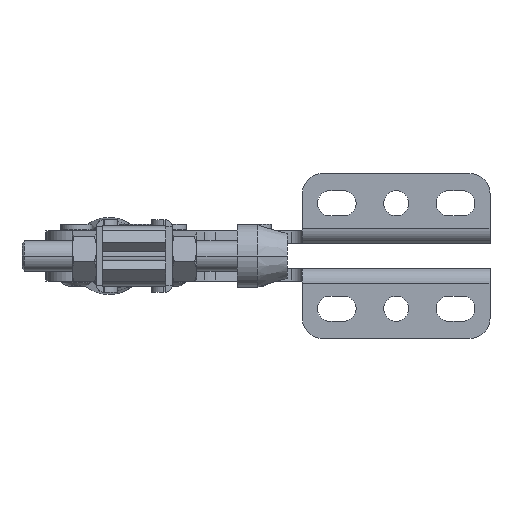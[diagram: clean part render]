
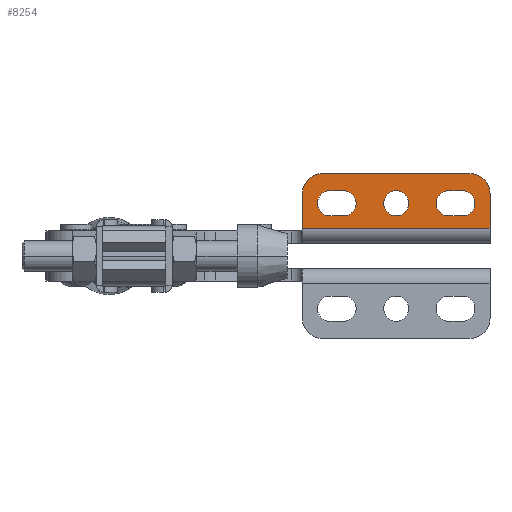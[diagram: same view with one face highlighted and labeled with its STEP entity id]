
A CAD part, left-side view. The second image highlights one B-rep face of the part: STEP entity #8254.
In plain terms, the highlighted planar face has unit normal (-1, 0, 0).
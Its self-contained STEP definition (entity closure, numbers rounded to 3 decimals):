
#241 = VECTOR ( 'NONE', #17406, 1000. ) ;
#344 = FACE_BOUND ( 'NONE', #18750, .T. ) ;
#382 = EDGE_CURVE ( 'NONE', #14639, #763, #6930, .T. ) ;
#401 = VERTEX_POINT ( 'NONE', #4260 ) ;
#462 = DIRECTION ( 'NONE',  ( -1., 0., 0. ) ) ;
#551 = CARTESIAN_POINT ( 'NONE',  ( -31.25, -125.245, 16.075 ) ) ;
#763 = VERTEX_POINT ( 'NONE', #1004 ) ;
#966 = ORIENTED_EDGE ( 'NONE', *, *, #8066, .T. ) ;
#1004 = CARTESIAN_POINT ( 'NONE',  ( -31.25, -125.245, 21.075 ) ) ;
#1170 = CARTESIAN_POINT ( 'NONE',  ( -31.25, -66.74, 0. ) ) ;
#1243 = DIRECTION ( 'NONE',  ( -1., 0., 0. ) ) ;
#1256 = CARTESIAN_POINT ( 'NONE',  ( -31.25, -130.745, 21.075 ) ) ;
#1421 = EDGE_CURVE ( 'NONE', #11229, #9070, #10262, .T. ) ;
#1564 = AXIS2_PLACEMENT_3D ( 'NONE', #4036, #14135, #15666 ) ;
#1580 = VERTEX_POINT ( 'NONE', #8840 ) ;
#1890 = CIRCLE ( 'NONE', #16538, 8. ) ;
#2366 = AXIS2_PLACEMENT_3D ( 'NONE', #6588, #7928, #6404 ) ;
#2526 = CARTESIAN_POINT ( 'NONE',  ( -31.25, -125.245, 11.075 ) ) ;
#2661 = EDGE_CURVE ( 'NONE', #1580, #11229, #16741, .T. ) ;
#2808 = DIRECTION ( 'NONE',  ( 0., 0., -1. ) ) ;
#2931 = CARTESIAN_POINT ( 'NONE',  ( -31.25, -130.745, 16.075 ) ) ;
#3078 = CARTESIAN_POINT ( 'NONE',  ( -31.25, -66.74, 6. ) ) ;
#3169 = CARTESIAN_POINT ( 'NONE',  ( -31.25, -130.745, 21.075 ) ) ;
#3248 = EDGE_CURVE ( 'NONE', #13111, #17751, #17593, .T. ) ;
#3279 = CARTESIAN_POINT ( 'NONE',  ( -31.25, -133.75, 20. ) ) ;
#3302 = DIRECTION ( 'NONE',  ( -1., 0., 0. ) ) ;
#4036 = CARTESIAN_POINT ( 'NONE',  ( -31.25, -77.745, 16.075 ) ) ;
#4245 = VERTEX_POINT ( 'NONE', #5282 ) ;
#4260 = CARTESIAN_POINT ( 'NONE',  ( -31.25, -83.245, 11.075 ) ) ;
#4333 = CARTESIAN_POINT ( 'NONE',  ( -31.25, -66.74, 6. ) ) ;
#4346 = CARTESIAN_POINT ( 'NONE',  ( -31.25, -141.75, 0. ) ) ;
#4396 = FACE_BOUND ( 'NONE', #10496, .T. ) ;
#4438 = VECTOR ( 'NONE', #4706, 1000. ) ;
#4614 = CARTESIAN_POINT ( 'NONE',  ( -31.25, -104.245, 11.075 ) ) ;
#4706 = DIRECTION ( 'NONE',  ( 0., 1., 0. ) ) ;
#4977 = LINE ( 'NONE', #8129, #18229 ) ;
#5042 = ORIENTED_EDGE ( 'NONE', *, *, #1421, .T. ) ;
#5282 = CARTESIAN_POINT ( 'NONE',  ( -31.25, -130.745, 11.075 ) ) ;
#5624 = VECTOR ( 'NONE', #8625, 1000. ) ;
#5670 = CIRCLE ( 'NONE', #7209, 5. ) ;
#5826 = EDGE_CURVE ( 'NONE', #401, #13139, #18044, .T. ) ;
#5925 = FACE_BOUND ( 'NONE', #13856, .T. ) ;
#5948 = LINE ( 'NONE', #11659, #5624 ) ;
#6024 = CARTESIAN_POINT ( 'NONE',  ( -31.25, -77.745, 11.075 ) ) ;
#6026 = DIRECTION ( 'NONE',  ( 0., -1., 0. ) ) ;
#6097 = CARTESIAN_POINT ( 'NONE',  ( -31.25, -83.245, 21.075 ) ) ;
#6125 = EDGE_CURVE ( 'NONE', #17751, #13111, #14069, .T. ) ;
#6143 = LINE ( 'NONE', #3078, #4438 ) ;
#6216 = VECTOR ( 'NONE', #16379, 1000. ) ;
#6332 = CARTESIAN_POINT ( 'NONE',  ( -31.25, -133.75, 28. ) ) ;
#6333 = EDGE_CURVE ( 'NONE', #17724, #7985, #1890, .T. ) ;
#6404 = DIRECTION ( 'NONE',  ( 0., 0., 1. ) ) ;
#6428 = DIRECTION ( 'NONE',  ( 0., 1., 0. ) ) ;
#6464 = VERTEX_POINT ( 'NONE', #12428 ) ;
#6588 = CARTESIAN_POINT ( 'NONE',  ( -31.25, -104.245, 16.075 ) ) ;
#6742 = VECTOR ( 'NONE', #7131, 1000. ) ;
#6930 = LINE ( 'NONE', #1256, #6742 ) ;
#7100 = AXIS2_PLACEMENT_3D ( 'NONE', #12684, #8318, #12415 ) ;
#7113 = DIRECTION ( 'NONE',  ( 0., 0., 1. ) ) ;
#7131 = DIRECTION ( 'NONE',  ( 0., 1., 0. ) ) ;
#7209 = AXIS2_PLACEMENT_3D ( 'NONE', #2931, #3302, #8943 ) ;
#7473 = ORIENTED_EDGE ( 'NONE', *, *, #382, .F. ) ;
#7550 = CARTESIAN_POINT ( 'NONE',  ( -31.25, 0., 0. ) ) ;
#7928 = DIRECTION ( 'NONE',  ( -1., 0., 0. ) ) ;
#7985 = VERTEX_POINT ( 'NONE', #6332 ) ;
#8066 = EDGE_CURVE ( 'NONE', #7985, #1580, #4977, .T. ) ;
#8129 = CARTESIAN_POINT ( 'NONE',  ( -31.25, 0., 28. ) ) ;
#8254 = ADVANCED_FACE ( 'NONE', ( #4396, #5925, #344, #10485 ), #9159, .F. ) ;
#8318 = DIRECTION ( 'NONE',  ( -1., 0., 0. ) ) ;
#8517 = CARTESIAN_POINT ( 'NONE',  ( -31.25, -104.245, 21.075 ) ) ;
#8607 = CARTESIAN_POINT ( 'NONE',  ( -31.25, -83.245, 21.075 ) ) ;
#8625 = DIRECTION ( 'NONE',  ( 0., -1., 0. ) ) ;
#8627 = CARTESIAN_POINT ( 'NONE',  ( -31.25, -83.245, 16.075 ) ) ;
#8677 = AXIS2_PLACEMENT_3D ( 'NONE', #551, #462, #13425 ) ;
#8840 = CARTESIAN_POINT ( 'NONE',  ( -31.25, -74.74, 28. ) ) ;
#8943 = DIRECTION ( 'NONE',  ( 0., 0., 1. ) ) ;
#8984 = LINE ( 'NONE', #13237, #16228 ) ;
#8991 = EDGE_CURVE ( 'NONE', #10345, #401, #5948, .T. ) ;
#9070 = VERTEX_POINT ( 'NONE', #4333 ) ;
#9109 = DIRECTION ( 'NONE',  ( -1., 0., 0. ) ) ;
#9144 = LINE ( 'NONE', #6097, #6216 ) ;
#9159 = PLANE ( 'NONE',  #15817 ) ;
#9644 = EDGE_CURVE ( 'NONE', #11010, #4245, #8984, .T. ) ;
#9988 = EDGE_CURVE ( 'NONE', #13139, #16473, #9144, .T. ) ;
#10262 = LINE ( 'NONE', #1170, #241 ) ;
#10345 = VERTEX_POINT ( 'NONE', #6024 ) ;
#10356 = CARTESIAN_POINT ( 'NONE',  ( -31.25, -66.74, 20. ) ) ;
#10485 = FACE_OUTER_BOUND ( 'NONE', #14866, .T. ) ;
#10496 = EDGE_LOOP ( 'NONE', ( #17508, #17696 ) ) ;
#10666 = ORIENTED_EDGE ( 'NONE', *, *, #8991, .F. ) ;
#10705 = CARTESIAN_POINT ( 'NONE',  ( -31.25, -141.75, 20. ) ) ;
#10793 = CIRCLE ( 'NONE', #8677, 5. ) ;
#10851 = ORIENTED_EDGE ( 'NONE', *, *, #6333, .T. ) ;
#11010 = VERTEX_POINT ( 'NONE', #2526 ) ;
#11229 = VERTEX_POINT ( 'NONE', #10356 ) ;
#11587 = LINE ( 'NONE', #4346, #13253 ) ;
#11659 = CARTESIAN_POINT ( 'NONE',  ( -31.25, -83.245, 11.075 ) ) ;
#11674 = DIRECTION ( 'NONE',  ( 0., 0., 1. ) ) ;
#11697 = ORIENTED_EDGE ( 'NONE', *, *, #18847, .T. ) ;
#11872 = ORIENTED_EDGE ( 'NONE', *, *, #15196, .F. ) ;
#12250 = CIRCLE ( 'NONE', #1564, 5. ) ;
#12415 = DIRECTION ( 'NONE',  ( 0., 0., 1. ) ) ;
#12428 = CARTESIAN_POINT ( 'NONE',  ( -31.25, -141.75, 6. ) ) ;
#12582 = ORIENTED_EDGE ( 'NONE', *, *, #9644, .F. ) ;
#12684 = CARTESIAN_POINT ( 'NONE',  ( -31.25, -104.245, 16.075 ) ) ;
#12739 = EDGE_CURVE ( 'NONE', #16473, #10345, #12250, .T. ) ;
#12808 = DIRECTION ( 'NONE',  ( -1., 0., 0. ) ) ;
#12866 = ORIENTED_EDGE ( 'NONE', *, *, #15942, .F. ) ;
#12979 = ORIENTED_EDGE ( 'NONE', *, *, #12739, .F. ) ;
#13111 = VERTEX_POINT ( 'NONE', #8517 ) ;
#13139 = VERTEX_POINT ( 'NONE', #8607 ) ;
#13234 = DIRECTION ( 'NONE',  ( 1., 0., 0. ) ) ;
#13237 = CARTESIAN_POINT ( 'NONE',  ( -31.25, -130.745, 11.075 ) ) ;
#13253 = VECTOR ( 'NONE', #11674, 1000. ) ;
#13376 = AXIS2_PLACEMENT_3D ( 'NONE', #15877, #12808, #2808 ) ;
#13425 = DIRECTION ( 'NONE',  ( 0., 0., 1. ) ) ;
#13856 = EDGE_LOOP ( 'NONE', ( #7473, #14577, #12582, #11872 ) ) ;
#14069 = CIRCLE ( 'NONE', #7100, 5. ) ;
#14135 = DIRECTION ( 'NONE',  ( -1., 0., 0. ) ) ;
#14189 = ORIENTED_EDGE ( 'NONE', *, *, #9988, .F. ) ;
#14484 = ORIENTED_EDGE ( 'NONE', *, *, #2661, .T. ) ;
#14577 = ORIENTED_EDGE ( 'NONE', *, *, #18372, .F. ) ;
#14639 = VERTEX_POINT ( 'NONE', #3169 ) ;
#14683 = AXIS2_PLACEMENT_3D ( 'NONE', #8627, #1243, #7113 ) ;
#14768 = DIRECTION ( 'NONE',  ( 0., 0., -1. ) ) ;
#14866 = EDGE_LOOP ( 'NONE', ( #11697, #10851, #966, #14484, #5042, #12866 ) ) ;
#14990 = DIRECTION ( 'NONE',  ( 0., 0., -1. ) ) ;
#15196 = EDGE_CURVE ( 'NONE', #763, #11010, #10793, .T. ) ;
#15666 = DIRECTION ( 'NONE',  ( 0., 0., 1. ) ) ;
#15817 = AXIS2_PLACEMENT_3D ( 'NONE', #7550, #13234, #14768 ) ;
#15877 = CARTESIAN_POINT ( 'NONE',  ( -31.25, -74.74, 20. ) ) ;
#15942 = EDGE_CURVE ( 'NONE', #6464, #9070, #6143, .T. ) ;
#16148 = ORIENTED_EDGE ( 'NONE', *, *, #5826, .F. ) ;
#16228 = VECTOR ( 'NONE', #6026, 1000. ) ;
#16379 = DIRECTION ( 'NONE',  ( 0., 1., 0. ) ) ;
#16473 = VERTEX_POINT ( 'NONE', #17935 ) ;
#16538 = AXIS2_PLACEMENT_3D ( 'NONE', #3279, #9109, #14990 ) ;
#16741 = CIRCLE ( 'NONE', #13376, 8. ) ;
#17406 = DIRECTION ( 'NONE',  ( 0., 0., -1. ) ) ;
#17508 = ORIENTED_EDGE ( 'NONE', *, *, #3248, .F. ) ;
#17593 = CIRCLE ( 'NONE', #2366, 5. ) ;
#17696 = ORIENTED_EDGE ( 'NONE', *, *, #6125, .F. ) ;
#17724 = VERTEX_POINT ( 'NONE', #10705 ) ;
#17751 = VERTEX_POINT ( 'NONE', #4614 ) ;
#17935 = CARTESIAN_POINT ( 'NONE',  ( -31.25, -77.745, 21.075 ) ) ;
#18044 = CIRCLE ( 'NONE', #14683, 5. ) ;
#18229 = VECTOR ( 'NONE', #6428, 1000. ) ;
#18372 = EDGE_CURVE ( 'NONE', #4245, #14639, #5670, .T. ) ;
#18750 = EDGE_LOOP ( 'NONE', ( #14189, #16148, #10666, #12979 ) ) ;
#18847 = EDGE_CURVE ( 'NONE', #6464, #17724, #11587, .T. ) ;
